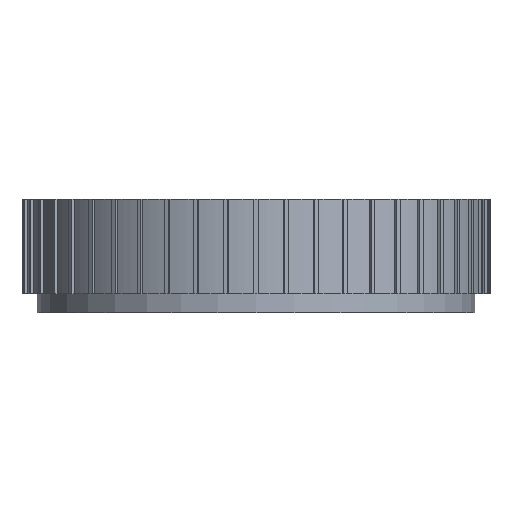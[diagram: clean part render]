
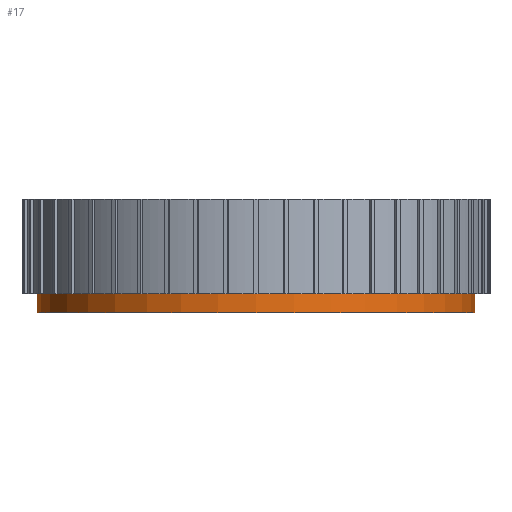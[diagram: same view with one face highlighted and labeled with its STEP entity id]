
A CAD part, front view. The second image highlights one B-rep face of the part: STEP entity #17.
In plain terms, the highlighted cylindrical face has radius 28.8 mm (diameter 57.6 mm), a full revolution.
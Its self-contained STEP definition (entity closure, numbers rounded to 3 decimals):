
#17 = ADVANCED_FACE('',(#18),#32,.T.);
#18 = FACE_BOUND('',#19,.F.);
#19 = EDGE_LOOP('',(#20,#50,#77,#78));
#20 = ORIENTED_EDGE('',*,*,#21,.T.);
#21 = EDGE_CURVE('',#22,#24,#26,.T.);
#22 = VERTEX_POINT('',#23);
#23 = CARTESIAN_POINT('',(28.8,0.,8.6));
#24 = VERTEX_POINT('',#25);
#25 = CARTESIAN_POINT('',(28.8,0.,6.1));
#26 = SEAM_CURVE('',#27,(#31,#43),.PCURVE_S1.);
#27 = LINE('',#28,#29);
#28 = CARTESIAN_POINT('',(28.8,0.,19.8));
#29 = VECTOR('',#30,1.);
#30 = DIRECTION('',(0.,0.,-1.));
#31 = PCURVE('',#32,#37);
#32 = CYLINDRICAL_SURFACE('',#33,28.8);
#33 = AXIS2_PLACEMENT_3D('',#34,#35,#36);
#34 = CARTESIAN_POINT('',(0.,0.,6.1));
#35 = DIRECTION('',(-0.,-0.,-1.));
#36 = DIRECTION('',(1.,0.,0.));
#37 = DEFINITIONAL_REPRESENTATION('',(#38),#42);
#38 = LINE('',#39,#40);
#39 = CARTESIAN_POINT('',(-6.283,-13.7));
#40 = VECTOR('',#41,1.);
#41 = DIRECTION('',(0.,1.));
#42 = ( GEOMETRIC_REPRESENTATION_CONTEXT(2) 
PARAMETRIC_REPRESENTATION_CONTEXT() REPRESENTATION_CONTEXT('2D SPACE',''
  ) );
#43 = PCURVE('',#32,#44);
#44 = DEFINITIONAL_REPRESENTATION('',(#45),#49);
#45 = LINE('',#46,#47);
#46 = CARTESIAN_POINT('',(-0.,-13.7));
#47 = VECTOR('',#48,1.);
#48 = DIRECTION('',(0.,1.));
#49 = ( GEOMETRIC_REPRESENTATION_CONTEXT(2) 
PARAMETRIC_REPRESENTATION_CONTEXT() REPRESENTATION_CONTEXT('2D SPACE',''
  ) );
#50 = ORIENTED_EDGE('',*,*,#51,.F.);
#51 = EDGE_CURVE('',#24,#24,#52,.T.);
#52 = SURFACE_CURVE('',#53,(#58,#65),.PCURVE_S1.);
#53 = CIRCLE('',#54,28.8);
#54 = AXIS2_PLACEMENT_3D('',#55,#56,#57);
#55 = CARTESIAN_POINT('',(0.,0.,6.1));
#56 = DIRECTION('',(0.,0.,1.));
#57 = DIRECTION('',(1.,0.,0.));
#58 = PCURVE('',#32,#59);
#59 = DEFINITIONAL_REPRESENTATION('',(#60),#64);
#60 = LINE('',#61,#62);
#61 = CARTESIAN_POINT('',(-0.,0.));
#62 = VECTOR('',#63,1.);
#63 = DIRECTION('',(-1.,0.));
#64 = ( GEOMETRIC_REPRESENTATION_CONTEXT(2) 
PARAMETRIC_REPRESENTATION_CONTEXT() REPRESENTATION_CONTEXT('2D SPACE',''
  ) );
#65 = PCURVE('',#66,#71);
#66 = PLANE('',#67);
#67 = AXIS2_PLACEMENT_3D('',#68,#69,#70);
#68 = CARTESIAN_POINT('',(0.,0.,6.1));
#69 = DIRECTION('',(0.,0.,1.));
#70 = DIRECTION('',(1.,0.,-0.));
#71 = DEFINITIONAL_REPRESENTATION('',(#72),#76);
#72 = CIRCLE('',#73,28.8);
#73 = AXIS2_PLACEMENT_2D('',#74,#75);
#74 = CARTESIAN_POINT('',(0.,0.));
#75 = DIRECTION('',(1.,0.));
#76 = ( GEOMETRIC_REPRESENTATION_CONTEXT(2) 
PARAMETRIC_REPRESENTATION_CONTEXT() REPRESENTATION_CONTEXT('2D SPACE',''
  ) );
#77 = ORIENTED_EDGE('',*,*,#21,.F.);
#78 = ORIENTED_EDGE('',*,*,#79,.F.);
#79 = EDGE_CURVE('',#22,#22,#80,.T.);
#80 = SURFACE_CURVE('',#81,(#86,#93),.PCURVE_S1.);
#81 = CIRCLE('',#82,28.8);
#82 = AXIS2_PLACEMENT_3D('',#83,#84,#85);
#83 = CARTESIAN_POINT('',(0.,0.,8.6));
#84 = DIRECTION('',(0.,0.,-1.));
#85 = DIRECTION('',(1.,0.,0.));
#86 = PCURVE('',#32,#87);
#87 = DEFINITIONAL_REPRESENTATION('',(#88),#92);
#88 = LINE('',#89,#90);
#89 = CARTESIAN_POINT('',(-6.283,-2.5));
#90 = VECTOR('',#91,1.);
#91 = DIRECTION('',(1.,-0.));
#92 = ( GEOMETRIC_REPRESENTATION_CONTEXT(2) 
PARAMETRIC_REPRESENTATION_CONTEXT() REPRESENTATION_CONTEXT('2D SPACE',''
  ) );
#93 = PCURVE('',#94,#99);
#94 = PLANE('',#95);
#95 = AXIS2_PLACEMENT_3D('',#96,#97,#98);
#96 = CARTESIAN_POINT('',(30.1,-0.3,8.6));
#97 = DIRECTION('',(0.,0.,1.));
#98 = DIRECTION('',(1.,0.,0.));
#99 = DEFINITIONAL_REPRESENTATION('',(#100),#108);
#100 = ( BOUNDED_CURVE() B_SPLINE_CURVE(2,(#101,#102,#103,#104,#105,#106
,#107),.UNSPECIFIED.,.T.,.F.) B_SPLINE_CURVE_WITH_KNOTS((1,2,2,2,2,1),(
    -2.094,0.,2.094,4.189,6.283,
8.378),.UNSPECIFIED.) CURVE() GEOMETRIC_REPRESENTATION_ITEM() 
RATIONAL_B_SPLINE_CURVE((1.,0.5,1.,0.5,1.,0.5,1.)) REPRESENTATION_ITEM(
  '') );
#101 = CARTESIAN_POINT('',(-1.3,0.3));
#102 = CARTESIAN_POINT('',(-1.3,-49.583));
#103 = CARTESIAN_POINT('',(-44.5,-24.642));
#104 = CARTESIAN_POINT('',(-87.7,0.3));
#105 = CARTESIAN_POINT('',(-44.5,25.242));
#106 = CARTESIAN_POINT('',(-1.3,50.183));
#107 = CARTESIAN_POINT('',(-1.3,0.3));
#108 = ( GEOMETRIC_REPRESENTATION_CONTEXT(2) 
PARAMETRIC_REPRESENTATION_CONTEXT() REPRESENTATION_CONTEXT('2D SPACE',''
  ) );
